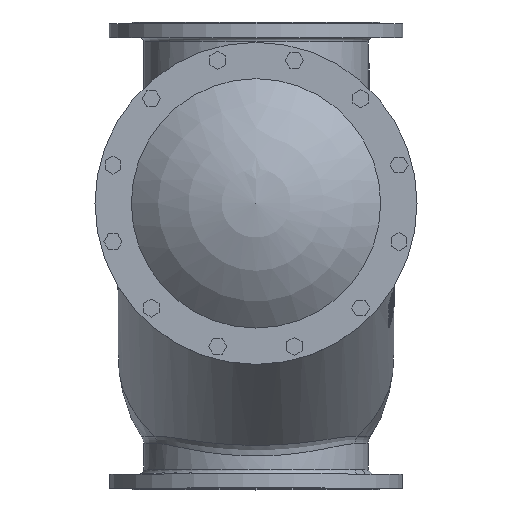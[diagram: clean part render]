
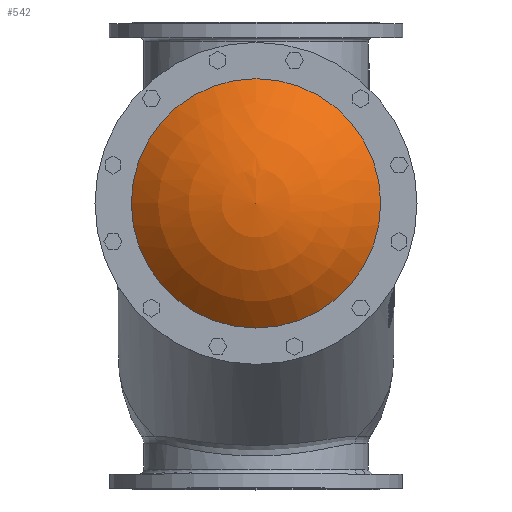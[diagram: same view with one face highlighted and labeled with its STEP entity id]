
A CAD part, top view. The second image highlights one B-rep face of the part: STEP entity #542.
In plain terms, the highlighted spherical face has radius 338 mm.
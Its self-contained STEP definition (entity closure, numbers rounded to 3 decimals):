
#542 = ADVANCED_FACE( '', ( #1409 ), #1410, .T. );
#1409 = FACE_OUTER_BOUND( '', #4903, .T. );
#1410 = SPHERICAL_SURFACE( '', #4904, 338. );
#4903 = EDGE_LOOP( '', ( #16013 ) );
#4904 = AXIS2_PLACEMENT_3D( '', #16014, #16015, #16016 );
#16013 = ORIENTED_EDGE( '', *, *, #18833, .T. );
#16014 = CARTESIAN_POINT( '', ( 0., 100.258, 364.933 ) );
#16015 = DIRECTION( '', ( 0., 0., 1. ) );
#16016 = DIRECTION( '', ( 0., 1., 0. ) );
#18833 = EDGE_CURVE( '', #20271, #20271, #20272, .T. );
#20271 = VERTEX_POINT( '', #24292 );
#20272 = CIRCLE( '', #24293, 240. );
#24292 = CARTESIAN_POINT( '', ( 0., -139.742, 602.933 ) );
#24293 = AXIS2_PLACEMENT_3D( '', #31899, #31900, #31901 );
#31899 = CARTESIAN_POINT( '', ( 0., 100.258, 602.933 ) );
#31900 = DIRECTION( '', ( 0., 0., 1. ) );
#31901 = DIRECTION( '', ( 0., -1., 0. ) );
